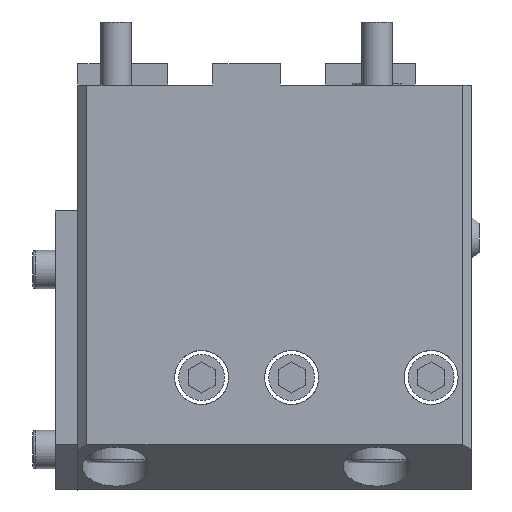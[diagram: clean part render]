
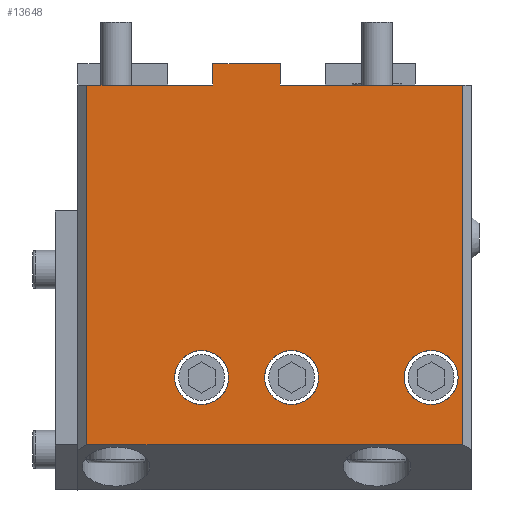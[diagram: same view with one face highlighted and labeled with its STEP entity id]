
A CAD part, front view. The second image highlights one B-rep face of the part: STEP entity #13648.
In plain terms, the highlighted planar face has unit normal (0, -1, 0).
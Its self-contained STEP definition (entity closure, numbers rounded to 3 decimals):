
#6052=CIRCLE('',#12966,6.);
#6053=CIRCLE('',#12967,6.);
#6054=CIRCLE('',#12968,6.);
#6202=ORIENTED_EDGE('',*,*,#8684,.T.);
#6203=ORIENTED_EDGE('',*,*,#8685,.F.);
#6204=ORIENTED_EDGE('',*,*,#8680,.F.);
#6205=ORIENTED_EDGE('',*,*,#8686,.T.);
#6206=ORIENTED_EDGE('',*,*,#8687,.T.);
#6207=ORIENTED_EDGE('',*,*,#8688,.F.);
#6208=ORIENTED_EDGE('',*,*,#8689,.T.);
#6209=ORIENTED_EDGE('',*,*,#8690,.T.);
#6210=ORIENTED_EDGE('',*,*,#8691,.F.);
#6211=ORIENTED_EDGE('',*,*,#8692,.F.);
#6212=ORIENTED_EDGE('',*,*,#8693,.F.);
#7386=VECTOR('',#10112,1.);
#7390=VECTOR('',#10118,1.);
#7391=VECTOR('',#10119,1.);
#7392=VECTOR('',#10120,1.);
#7393=VECTOR('',#10121,1.);
#7394=VECTOR('',#10122,1.);
#7395=VECTOR('',#10123,1.);
#7396=VECTOR('',#10124,1.);
#7824=LINE('',#11455,#7386);
#7828=LINE('',#11464,#7390);
#7829=LINE('',#11465,#7391);
#7830=LINE('',#11467,#7392);
#7831=LINE('',#11469,#7393);
#7832=LINE('',#11471,#7394);
#7833=LINE('',#11473,#7395);
#7834=LINE('',#11474,#7396);
#8262=VERTEX_POINT('',#11453);
#8263=VERTEX_POINT('',#11454);
#8266=VERTEX_POINT('',#11462);
#8267=VERTEX_POINT('',#11463);
#8268=VERTEX_POINT('',#11466);
#8269=VERTEX_POINT('',#11468);
#8270=VERTEX_POINT('',#11470);
#8271=VERTEX_POINT('',#11472);
#8272=VERTEX_POINT('',#11475);
#8273=VERTEX_POINT('',#11477);
#8274=VERTEX_POINT('',#11479);
#8680=EDGE_CURVE('',#8262,#8263,#7824,.T.);
#8684=EDGE_CURVE('',#8266,#8267,#7828,.T.);
#8685=EDGE_CURVE('',#8263,#8267,#7829,.T.);
#8686=EDGE_CURVE('',#8262,#8268,#7830,.T.);
#8687=EDGE_CURVE('',#8268,#8269,#7831,.T.);
#8688=EDGE_CURVE('',#8270,#8269,#7832,.T.);
#8689=EDGE_CURVE('',#8270,#8271,#7833,.T.);
#8690=EDGE_CURVE('',#8271,#8266,#7834,.T.);
#8691=EDGE_CURVE('',#8272,#8272,#6052,.T.);
#8692=EDGE_CURVE('',#8273,#8273,#6053,.T.);
#8693=EDGE_CURVE('',#8274,#8274,#6054,.T.);
#9275=EDGE_LOOP('',(#6202,#6203,#6204,#6205,#6206,#6207,#6208,#6209));
#9276=EDGE_LOOP('',(#6210));
#9277=EDGE_LOOP('',(#6211));
#9278=EDGE_LOOP('',(#6212));
#9689=FACE_BOUND('',#9275,.T.);
#9690=FACE_BOUND('',#9276,.T.);
#9691=FACE_BOUND('',#9277,.T.);
#9692=FACE_BOUND('',#9278,.T.);
#10112=DIRECTION('',(0.,0.,4.75));
#10116=DIRECTION('',(0.,-1.,0.));
#10117=DIRECTION('',(-1.,0.,0.));
#10118=DIRECTION('',(0.,0.,4.75));
#10119=DIRECTION('',(15.,0.,0.));
#10120=DIRECTION('',(-28.,0.,0.));
#10121=DIRECTION('',(0.,0.,-79.896));
#10122=DIRECTION('',(-83.5,0.,0.));
#10123=DIRECTION('',(0.,0.,79.896));
#10124=DIRECTION('',(-40.5,0.,0.));
#10125=DIRECTION('',(0.,-1.,0.));
#10126=DIRECTION('',(-6.,0.,0.));
#10127=DIRECTION('',(0.,-1.,0.));
#10128=DIRECTION('',(-6.,0.,0.));
#10129=DIRECTION('',(0.,-1.,0.));
#10130=DIRECTION('',(-6.,0.,0.));
#11453=CARTESIAN_POINT('',(192.5,-37.5,0.));
#11454=CARTESIAN_POINT('',(192.5,-37.5,4.75));
#11455=CARTESIAN_POINT('',(192.5,-37.5,0.));
#11461=CARTESIAN_POINT('',(207.5,-37.5,-5.));
#11462=CARTESIAN_POINT('',(207.5,-37.5,0.));
#11463=CARTESIAN_POINT('',(207.5,-37.5,4.75));
#11464=CARTESIAN_POINT('',(207.5,-37.5,0.));
#11465=CARTESIAN_POINT('',(192.5,-37.5,4.75));
#11466=CARTESIAN_POINT('',(164.5,-37.5,0.));
#11467=CARTESIAN_POINT('',(192.5,-37.5,0.));
#11468=CARTESIAN_POINT('',(164.5,-37.5,-79.896));
#11469=CARTESIAN_POINT('',(164.5,-37.5,0.));
#11470=CARTESIAN_POINT('',(248.,-37.5,-79.896));
#11471=CARTESIAN_POINT('',(248.,-37.5,-79.896));
#11472=CARTESIAN_POINT('',(248.,-37.5,0.));
#11473=CARTESIAN_POINT('',(248.,-37.5,-79.896));
#11474=CARTESIAN_POINT('',(248.,-37.5,0.));
#11475=CARTESIAN_POINT('',(235.,-37.5,-65.));
#11476=CARTESIAN_POINT('',(241.,-37.5,-65.));
#11477=CARTESIAN_POINT('',(184.,-37.5,-65.));
#11478=CARTESIAN_POINT('',(190.,-37.5,-65.));
#11479=CARTESIAN_POINT('',(204.,-37.5,-65.));
#11480=CARTESIAN_POINT('',(210.,-37.5,-65.));
#12965=AXIS2_PLACEMENT_3D('',#11461,#10116,#10117);
#12966=AXIS2_PLACEMENT_3D('',#11476,#10125,#10126);
#12967=AXIS2_PLACEMENT_3D('',#11478,#10127,#10128);
#12968=AXIS2_PLACEMENT_3D('',#11480,#10129,#10130);
#13417=PLANE('',#12965);
#13648=ADVANCED_FACE('',(#9689,#9690,#9691,#9692),#13417,.T.);
